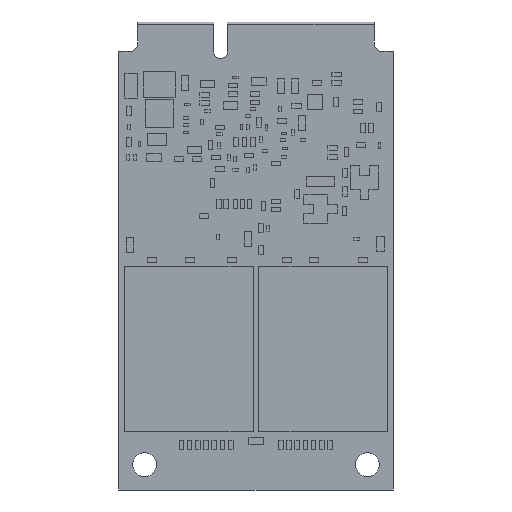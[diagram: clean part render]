
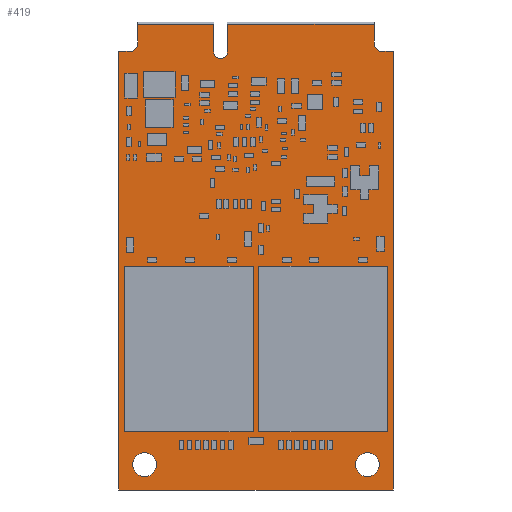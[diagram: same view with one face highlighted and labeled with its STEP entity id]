
A CAD part, front view. The second image highlights one B-rep face of the part: STEP entity #419.
In plain terms, the highlighted planar face has unit normal (0, -1, 0).
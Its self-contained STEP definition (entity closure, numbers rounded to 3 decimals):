
#6=CARTESIAN_POINT('',(-12.1,0.,-48.05));
#7=DIRECTION('',(0.,1.,0.));
#8=DIRECTION('',(1.,0.,0.));
#9=AXIS2_PLACEMENT_3D('',#6,#7,#8);
#11=CARTESIAN_POINT('',(-12.1,0.,-48.05));
#12=DIRECTION('',(0.,1.,0.));
#13=DIRECTION('',(-1.,0.,0.));
#14=AXIS2_PLACEMENT_3D('',#11,#12,#13);
#16=CARTESIAN_POINT('',(12.1,0.,-48.05));
#17=DIRECTION('',(0.,1.,0.));
#18=DIRECTION('',(1.,0.,0.));
#19=AXIS2_PLACEMENT_3D('',#16,#17,#18);
#21=CARTESIAN_POINT('',(12.1,0.,-48.05));
#22=DIRECTION('',(0.,1.,0.));
#23=DIRECTION('',(-1.,0.,0.));
#24=AXIS2_PLACEMENT_3D('',#21,#22,#23);
#26=DIRECTION('',(1.,0.,0.));
#27=VECTOR('',#26,1.275);
#28=CARTESIAN_POINT('',(-14.925,0.,-3.2));
#29=LINE('',#28,#27);
#30=DIRECTION('',(0.,0.,-1.));
#31=VECTOR('',#30,2.15);
#32=CARTESIAN_POINT('',(-12.85,0.,-0.25));
#33=LINE('',#32,#31);
#34=CARTESIAN_POINT('',(-3.85,0.,-3.25));
#35=DIRECTION('',(0.,1.,0.));
#36=DIRECTION('',(1.,0.,0.));
#37=AXIS2_PLACEMENT_3D('',#34,#35,#36);
#39=DIRECTION('',(0.,0.,-1.));
#40=VECTOR('',#39,2.15);
#41=CARTESIAN_POINT('',(12.85,0.,-0.25));
#42=LINE('',#41,#40);
#43=DIRECTION('',(-1.,0.,0.));
#44=VECTOR('',#43,1.275);
#45=CARTESIAN_POINT('',(14.925,0.,-3.2));
#46=LINE('',#45,#44);
#47=DIRECTION('',(0.,0.,-1.));
#48=VECTOR('',#47,47.6);
#49=CARTESIAN_POINT('',(14.925,0.,-3.2));
#50=LINE('',#49,#48);
#51=DIRECTION('',(-1.,0.,0.));
#52=VECTOR('',#51,29.85);
#53=CARTESIAN_POINT('',(14.925,0.,-50.8));
#54=LINE('',#53,#52);
#55=DIRECTION('',(0.,0.,1.));
#56=VECTOR('',#55,47.6);
#57=CARTESIAN_POINT('',(-14.925,0.,-50.8));
#58=LINE('',#57,#56);
#141=CARTESIAN_POINT('',(-13.65,0.,-2.4));
#142=DIRECTION('',(0.,1.,0.));
#143=DIRECTION('',(1.,0.,0.));
#144=AXIS2_PLACEMENT_3D('',#141,#142,#143);
#175=CARTESIAN_POINT('',(13.65,0.,-2.4));
#176=DIRECTION('',(0.,1.,0.));
#177=DIRECTION('',(0.,0.,-1.));
#178=AXIS2_PLACEMENT_3D('',#175,#176,#177);
#180=DIRECTION('',(1.,0.,0.));
#181=VECTOR('',#180,15.95);
#182=CARTESIAN_POINT('',(-3.1,0.,-0.25));
#183=LINE('',#182,#181);
#196=DIRECTION('',(0.,0.,-1.));
#197=VECTOR('',#196,3.);
#198=CARTESIAN_POINT('',(-3.1,0.,-0.25));
#199=LINE('',#198,#197);
#216=DIRECTION('',(0.,0.,1.));
#217=VECTOR('',#216,3.);
#218=CARTESIAN_POINT('',(-4.6,0.,-3.25));
#219=LINE('',#218,#217);
#220=DIRECTION('',(1.,0.,0.));
#221=VECTOR('',#220,8.25);
#222=CARTESIAN_POINT('',(-12.85,0.,-0.25));
#223=LINE('',#222,#221);
#284=CARTESIAN_POINT('',(14.925,0.,-50.8));
#285=CARTESIAN_POINT('',(-14.925,0.,-50.8));
#286=VERTEX_POINT('',#284);
#287=VERTEX_POINT('',#285);
#292=CARTESIAN_POINT('',(-10.8,0.,-48.05));
#293=CARTESIAN_POINT('',(-13.4,0.,-48.05));
#294=VERTEX_POINT('',#292);
#295=VERTEX_POINT('',#293);
#296=CARTESIAN_POINT('',(13.4,0.,-48.05));
#297=CARTESIAN_POINT('',(10.8,0.,-48.05));
#298=VERTEX_POINT('',#296);
#299=VERTEX_POINT('',#297);
#308=CARTESIAN_POINT('',(14.925,0.,-3.2));
#310=VERTEX_POINT('',#308);
#312=CARTESIAN_POINT('',(-14.925,0.,-3.2));
#314=VERTEX_POINT('',#312);
#317=CARTESIAN_POINT('',(12.85,0.,-2.4));
#319=VERTEX_POINT('',#317);
#321=CARTESIAN_POINT('',(13.65,0.,-3.2));
#323=VERTEX_POINT('',#321);
#325=CARTESIAN_POINT('',(-13.65,0.,-3.2));
#327=VERTEX_POINT('',#325);
#329=CARTESIAN_POINT('',(-12.85,0.,-2.4));
#331=VERTEX_POINT('',#329);
#340=CARTESIAN_POINT('',(-3.1,0.,-0.25));
#341=CARTESIAN_POINT('',(12.85,0.,-0.25));
#342=VERTEX_POINT('',#340);
#343=VERTEX_POINT('',#341);
#356=CARTESIAN_POINT('',(-12.85,0.,-0.25));
#357=CARTESIAN_POINT('',(-4.6,0.,-0.25));
#358=VERTEX_POINT('',#356);
#359=VERTEX_POINT('',#357);
#364=CARTESIAN_POINT('',(-3.1,0.,-3.25));
#365=CARTESIAN_POINT('',(-4.6,0.,-3.25));
#366=VERTEX_POINT('',#364);
#367=VERTEX_POINT('',#365);
#372=CARTESIAN_POINT('',(0.,0.,0.));
#373=DIRECTION('',(0.,1.,0.));
#374=DIRECTION('',(1.,0.,0.));
#375=AXIS2_PLACEMENT_3D('',#372,#373,#374);
#376=PLANE('',#375);
#378=ORIENTED_EDGE('',*,*,#377,.T.);
#380=ORIENTED_EDGE('',*,*,#379,.F.);
#382=ORIENTED_EDGE('',*,*,#381,.F.);
#384=ORIENTED_EDGE('',*,*,#383,.T.);
#386=ORIENTED_EDGE('',*,*,#385,.F.);
#388=ORIENTED_EDGE('',*,*,#387,.F.);
#390=ORIENTED_EDGE('',*,*,#389,.F.);
#392=ORIENTED_EDGE('',*,*,#391,.T.);
#394=ORIENTED_EDGE('',*,*,#393,.T.);
#396=ORIENTED_EDGE('',*,*,#395,.F.);
#398=ORIENTED_EDGE('',*,*,#397,.F.);
#400=ORIENTED_EDGE('',*,*,#399,.T.);
#402=ORIENTED_EDGE('',*,*,#401,.T.);
#404=ORIENTED_EDGE('',*,*,#403,.T.);
#405=EDGE_LOOP('',(#378,#380,#382,#384,#386,#388,#390,#392,#394,#396,#398,#400,
#402,#404));
#406=FACE_OUTER_BOUND('',#405,.F.);
#408=ORIENTED_EDGE('',*,*,#407,.F.);
#410=ORIENTED_EDGE('',*,*,#409,.F.);
#411=EDGE_LOOP('',(#408,#410));
#412=FACE_BOUND('',#411,.F.);
#414=ORIENTED_EDGE('',*,*,#413,.F.);
#416=ORIENTED_EDGE('',*,*,#415,.F.);
#417=EDGE_LOOP('',(#414,#416));
#418=FACE_BOUND('',#417,.F.);
#10=CIRCLE('',#9,1.3);
#15=CIRCLE('',#14,1.3);
#20=CIRCLE('',#19,1.3);
#25=CIRCLE('',#24,1.3);
#38=CIRCLE('',#37,0.75);
#145=CIRCLE('',#144,0.8);
#179=CIRCLE('',#178,0.8);
#377=EDGE_CURVE('',#314,#327,#29,.T.);
#379=EDGE_CURVE('',#331,#327,#145,.T.);
#381=EDGE_CURVE('',#358,#331,#33,.T.);
#383=EDGE_CURVE('',#358,#359,#223,.T.);
#385=EDGE_CURVE('',#367,#359,#219,.T.);
#387=EDGE_CURVE('',#366,#367,#38,.T.);
#389=EDGE_CURVE('',#342,#366,#199,.T.);
#391=EDGE_CURVE('',#342,#343,#183,.T.);
#393=EDGE_CURVE('',#343,#319,#42,.T.);
#395=EDGE_CURVE('',#323,#319,#179,.T.);
#397=EDGE_CURVE('',#310,#323,#46,.T.);
#399=EDGE_CURVE('',#310,#286,#50,.T.);
#401=EDGE_CURVE('',#286,#287,#54,.T.);
#403=EDGE_CURVE('',#287,#314,#58,.T.);
#407=EDGE_CURVE('',#298,#299,#20,.T.);
#409=EDGE_CURVE('',#299,#298,#25,.T.);
#413=EDGE_CURVE('',#294,#295,#10,.T.);
#415=EDGE_CURVE('',#295,#294,#15,.T.);
#419=ADVANCED_FACE('',(#406,#412,#418),#376,.F.);
